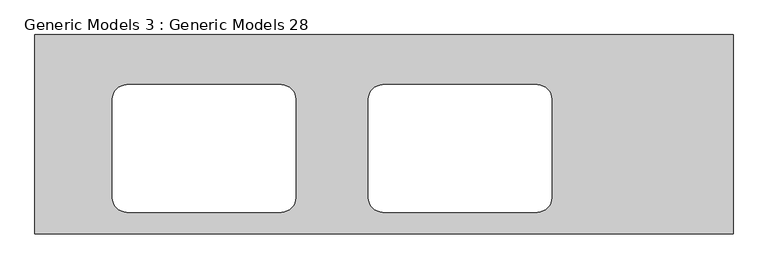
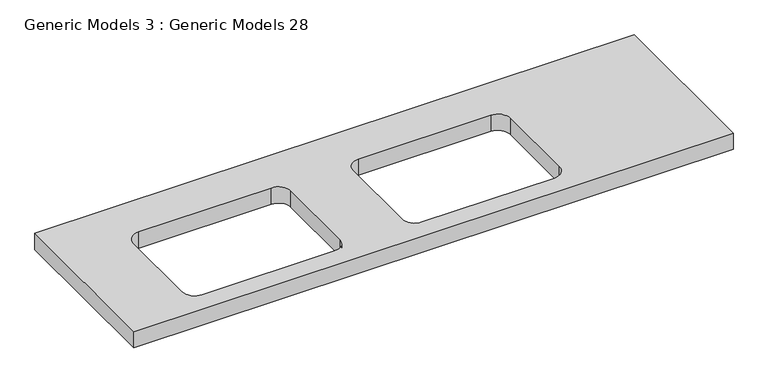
"""IFC4 building model written with IfcOpenShell, lengths in millimetres: proxy geometry, Generic Models 3 : Generic Models 28."""

import ifcopenshell
import ifcopenshell.guid

model = None  # the IFC model being written
_history = None  # IfcOwnerHistory: only IFC2X3 demands one
_inside = {}  # id of a spatial element -> (the spatial element, [elements in it])
_under = {}  # id of a project, library or spatial element -> (it, [spatial elements below it])
_declared = {}  # id of a project -> (the project, [libraries it declares])
_typed = {}  # id of a type object -> (the type object, [elements of that type])
_made_of = {}  # id of a material, layer set ... -> (it, [elements and type objects made of it])


def new_model(schema):
    """Start an empty IFC model of exactly this schema.

    Asked for "IFC4X3", IfcOpenShell would pick the latest addendum, in which some entities
    have other attributes; the version numbers below select the first issue.
    IFC2X3 requires an IfcOwnerHistory on every rooted entity: one is made here for all.
    """
    global model, _history
    if schema == "IFC4X3":
        model = ifcopenshell.file(schema_version=(4, 3, 0, 0))
    else:
        model = ifcopenshell.file(schema=schema)
    _inside.clear()
    _under.clear()
    _declared.clear()
    _typed.clear()
    _made_of.clear()
    _history = None
    if model.schema == "IFC2X3":
        org = make("IfcOrganization", Name="unknown")
        user = make(
            "IfcPersonAndOrganization",
            ThePerson=make("IfcPerson", FamilyName="unknown"),
            TheOrganization=org,
        )
        app = make(
            "IfcApplication",
            ApplicationDeveloper=org,
            Version="unknown",
            ApplicationFullName="unknown",
            ApplicationIdentifier="unknown",
        )
        _history = make(
            "IfcOwnerHistory",
            OwningUser=user,
            OwningApplication=app,
            ChangeAction="ADDED",
            CreationDate=0,
        )
    return model


def make(cls, **values):
    """One entity of the class cls with the attributes given. An attribute that is None is left unset."""
    return model.create_entity(
        cls, **{name: value for name, value in values.items() if value is not None}
    )


def rooted(cls, **values):
    """An entity with a GlobalId (a new one), such as an element, a storey or a relation."""
    return make(cls, GlobalId=ifcopenshell.guid.new(), OwnerHistory=_history, **values)


def si_unit(unit_type, name, prefix=None):
    """IfcSIUnit, for example si_unit("LENGTHUNIT", "METRE", prefix="MILLI")."""
    return make("IfcSIUnit", UnitType=unit_type, Prefix=prefix, Name=name)


def assignment(units):
    """IfcUnitAssignment: the units of a project."""
    return None if units is None else make("IfcUnitAssignment", Units=units)


def point(xyz):
    """IfcCartesianPoint."""
    return None if xyz is None else make("IfcCartesianPoint", Coordinates=xyz)


def direction(xyz):
    """IfcDirection."""
    return None if xyz is None else make("IfcDirection", DirectionRatios=xyz)


def frame(location, z_axis=None, x_axis=None):
    """IfcAxis2Placement3D, a coordinate frame: its origin and axes. An axis left out is left unset."""
    return make(
        "IfcAxis2Placement3D",
        Location=point(location),
        Axis=direction(z_axis),
        RefDirection=direction(x_axis),
    )


def frame_2d(location, x_axis=None):
    """IfcAxis2Placement2D, a coordinate frame in the plane: its origin and x axis."""
    return make(
        "IfcAxis2Placement2D", Location=point(location), RefDirection=direction(x_axis)
    )


def origin():
    """The frame at (0, 0, 0) with its axes left unset."""
    return frame((0.0, 0.0, 0.0))


def place(relative_to, where):
    """IfcLocalPlacement: puts the frame where relative to a parent placement (None: the world)."""
    return make(
        "IfcLocalPlacement", PlacementRelTo=relative_to, RelativePlacement=where
    )


def context(
    kind, dimensions, precision=None, world=None, true_north=None, identifier=None
):
    """IfcGeometricRepresentationContext, for example the 3D "Model" context."""
    return make(
        "IfcGeometricRepresentationContext",
        ContextIdentifier=identifier,
        ContextType=kind,
        CoordinateSpaceDimension=dimensions,
        Precision=precision,
        WorldCoordinateSystem=world,
        TrueNorth=true_north,
    )


def project(units=None, contexts=None):
    """IfcProject with its units and contexts."""
    return rooted(
        "IfcProject",
        Name="project",
        RepresentationContexts=contexts,
        UnitsInContext=assignment(units),
    )


def spatial(cls, under=None, at=None, **own):
    """A site, building, storey or space (cls), placed at a placement, below another one or the project."""
    s = rooted(cls, ObjectPlacement=at, **own)
    if under is not None:
        _under.setdefault(under.id(), (under, []))[1].append(s)
    return s


def polyline(points):
    """IfcPolyline through the points."""
    return make("IfcPolyline", Points=[point(p) for p in points])


def circle_curve(where, radius):
    """IfcCircle in the frame where."""
    return make("IfcCircle", Position=where, Radius=radius)


def trimmed(basis, trim1, trim2, sense, master):
    """IfcTrimmedCurve: the piece of a basis curve between two trims."""
    return make(
        "IfcTrimmedCurve",
        BasisCurve=basis,
        Trim1=trim1,
        Trim2=trim2,
        SenseAgreement=sense,
        MasterRepresentation=master,
    )


def segment(curve, same_sense, transition):
    """IfcCompositeCurveSegment."""
    return make(
        "IfcCompositeCurveSegment",
        Transition=transition,
        SameSense=same_sense,
        ParentCurve=curve,
    )


def composite_curve(segments, self_intersect=None):
    """IfcCompositeCurve: segments joined end to end."""
    return make("IfcCompositeCurve", Segments=segments, SelfIntersect=self_intersect)


def outline(outer, holes=None, kind="AREA"):
    """IfcArbitraryClosedProfileDef: a profile drawn as a closed curve; with holes, ...WithVoids."""
    if holes is None:
        return make("IfcArbitraryClosedProfileDef", ProfileType=kind, OuterCurve=outer)
    return make(
        "IfcArbitraryProfileDefWithVoids",
        ProfileType=kind,
        OuterCurve=outer,
        InnerCurves=holes,
    )


def extrude(swept, where, along, depth):
    """IfcExtrudedAreaSolid: the profile swept, set in the frame where, extruded along a direction by depth."""
    return make(
        "IfcExtrudedAreaSolid",
        SweptArea=swept,
        Position=where,
        ExtrudedDirection=direction(along),
        Depth=depth,
    )


def shape(context_of_items, identifier, shape_type, items):
    """IfcShapeRepresentation: the items that make up one representation, for example the "Body"."""
    return make(
        "IfcShapeRepresentation",
        ContextOfItems=context_of_items,
        RepresentationIdentifier=identifier,
        RepresentationType=shape_type,
        Items=items,
    )


def source(mapping_origin, context_of_items, identifier, shape_type, items):
    """IfcRepresentationMap: a shape defined once, which mapped items show again and again."""
    return make(
        "IfcRepresentationMap",
        MappingOrigin=mapping_origin,
        MappedRepresentation=shape(context_of_items, identifier, shape_type, items),
    )


def transform(
    local_origin,
    x_axis=None,
    y_axis=None,
    z_axis=None,
    scale=None,
    scale2=None,
    scale3=None,
    uniform=True,
):
    """IfcCartesianTransformationOperator3D, or its non-uniform kind. x_axis, y_axis, z_axis: its Axis1, 2, 3."""
    if uniform:
        return make(
            "IfcCartesianTransformationOperator3D",
            Axis1=direction(x_axis),
            Axis2=direction(y_axis),
            LocalOrigin=point(local_origin),
            Scale=scale,
            Axis3=direction(z_axis),
        )
    return make(
        "IfcCartesianTransformationOperator3DnonUniform",
        Axis1=direction(x_axis),
        Axis2=direction(y_axis),
        LocalOrigin=point(local_origin),
        Scale=scale,
        Axis3=direction(z_axis),
        Scale2=scale2,
        Scale3=scale3,
    )


def mapped(mapping_source, mapping_target):
    """IfcMappedItem: shows the shape of a source again, moved by a transform."""
    return make(
        "IfcMappedItem", MappingSource=mapping_source, MappingTarget=mapping_target
    )


def made_of(thing, what):
    """Note that an element or type object is made of a material, layer set ...; save() writes the relation."""
    if what is not None:
        _made_of.setdefault(what.id(), (what, []))[1].append(thing)
    return thing


def element(
    cls,
    number,
    at=None,
    inside=None,
    cuts=None,
    type_object=None,
    material=None,
    context=None,
    identifier="Body",
    shape_type=None,
    held_by="IfcProductDefinitionShape",
    body=None,
    shapes=None,
    **own,
):
    """One element of the class cls, such as IfcWall. Its Tag is "e" and its number.

    at: its placement. inside: the storey or other place that contains it. cuts: it is an
    opening in that element (IfcRelVoidsElement). A single representation is given by context,
    identifier, shape_type and body (its items); several are given by shapes. held_by: the class
    of the entity that holds the representations. save() writes the other relations.
    """
    e = rooted(cls, Tag="e%d" % number, ObjectPlacement=at, **own)
    if body is not None:
        shapes = [shape(context, identifier, shape_type, body)]
    if shapes is not None:
        e.Representation = make(held_by, Representations=shapes)
    if inside is not None:
        _inside.setdefault(inside.id(), (inside, []))[1].append(e)
    if cuts is not None:
        rooted(
            "IfcRelVoidsElement", RelatingBuildingElement=cuts, RelatedOpeningElement=e
        )
    if type_object is not None:
        _typed.setdefault(type_object.id(), (type_object, []))[1].append(e)
    return made_of(e, material)


def aggregate(whole, parts):
    """IfcRelAggregates: a whole, such as a stair, and the parts it consists of."""
    return rooted("IfcRelAggregates", RelatingObject=whole, RelatedObjects=parts)


def save(model, path):
    """Write the relations noted so far, then the file.

    IfcRelAggregates (storeys below a building ...), IfcRelContainedInSpatialStructure (elements
    in a storey), IfcRelDefinesByType, IfcRelAssociatesMaterial and IfcRelDeclares: one each for
    every whole, place, type object, material and project.
    """
    for whole, parts in _under.values():
        aggregate(whole, parts)
    for where, things in _inside.values():
        rooted(
            "IfcRelContainedInSpatialStructure",
            RelatedElements=things,
            RelatingStructure=where,
        )
    for kind, things in _typed.values():
        rooted("IfcRelDefinesByType", RelatedObjects=things, RelatingType=kind)
    for what, things in _made_of.values():
        rooted("IfcRelAssociatesMaterial", RelatedObjects=things, RelatingMaterial=what)
    for by, libraries in _declared.values():
        rooted("IfcRelDeclares", RelatingContext=by, RelatedDefinitions=libraries)
    model.write(path)


def generic_models_3_generic_models_28_048fe61c(model_context):
    return source(origin(), model_context, "Body", "SweptSolid", [
        extrude(outline(polyline([(-27883.9546758, -12764.5871375), (-25433.9546758, -12764.5871375), (-25433.9546758, -13464.5871375), (-27883.9546758, -13464.5871375), (-27883.9546758, -12764.5871375)]), holes=[composite_curve([segment(polyline([(-26968.7687427, -13337.1470274), (-26968.7687427, -12991.1470274)]), True, "CONTINUOUS"), segment(trimmed(circle_curve(frame_2d((-27019.5687427, -12991.1470274)), 50.8), [point((-26968.7687427, -12991.1470274))], [point((-27019.5687427, -12940.3470274))], True, "CARTESIAN"), True, "CONTINUOUS"), segment(polyline([(-27019.5687427, -12940.3470274), (-27561.0687427, -12940.3470274)]), True, "CONTINUOUS"), segment(trimmed(circle_curve(frame_2d((-27561.0687427, -12991.1470274)), 50.8), [point((-27561.0687427, -12940.3470274))], [point((-27611.8687427, -12991.1470274))], True, "CARTESIAN"), True, "CONTINUOUS"), segment(polyline([(-27611.8687427, -12991.1470274), (-27611.8687427, -13337.1470274)]), True, "CONTINUOUS"), segment(trimmed(circle_curve(frame_2d((-27561.0687427, -13337.1470274)), 50.8), [point((-27611.8687427, -13337.1470274))], [point((-27561.0687427, -13387.9470274))], True, "CARTESIAN"), True, "CONTINUOUS"), segment(polyline([(-27561.0687427, -13387.9470274), (-27019.5687427, -13387.9470274)]), True, "CONTINUOUS"), segment(trimmed(circle_curve(frame_2d((-27019.5687427, -13337.1470274)), 50.8), [point((-27019.5687427, -13387.9470274))], [point((-26968.7687427, -13337.1470274))], True, "CARTESIAN"), True, "CONTINUOUS")], self_intersect=False), composite_curve([segment(polyline([(-26070.5855873, -13337.1470274), (-26070.5855873, -12991.1470274)]), True, "CONTINUOUS"), segment(trimmed(circle_curve(frame_2d((-26121.3855873, -12991.1470274)), 50.8), [point((-26070.5855873, -12991.1470274))], [point((-26121.3855873, -12940.3470274))], True, "CARTESIAN"), True, "CONTINUOUS"), segment(polyline([(-26121.3855873, -12940.3470274), (-26662.8855873, -12940.3470274)]), True, "CONTINUOUS"), segment(trimmed(circle_curve(frame_2d((-26662.8855873, -12991.1470274)), 50.8), [point((-26662.8855873, -12940.3470274))], [point((-26713.6855873, -12991.1470274))], True, "CARTESIAN"), True, "CONTINUOUS"), segment(polyline([(-26713.6855873, -12991.1470274), (-26713.6855873, -13337.1470274)]), True, "CONTINUOUS"), segment(trimmed(circle_curve(frame_2d((-26662.8855873, -13337.1470274)), 50.8), [point((-26713.6855873, -13337.1470274))], [point((-26662.8855873, -13387.9470274))], True, "CARTESIAN"), True, "CONTINUOUS"), segment(polyline([(-26662.8855873, -13387.9470274), (-26121.3855873, -13387.9470274)]), True, "CONTINUOUS"), segment(trimmed(circle_curve(frame_2d((-26121.3855873, -13337.1470274)), 50.8), [point((-26121.3855873, -13387.9470274))], [point((-26070.5855873, -13337.1470274))], True, "CARTESIAN"), True, "CONTINUOUS")], self_intersect=False)]), frame((0.0, 0.0, 830.0), z_axis=(0.0, 0.0, 1.0), x_axis=(1.0, 0.0, 0.0)), (0.0, 0.0, 1.0), 70.0),
    ])


if __name__ == "__main__":
    model = new_model("IFC4")
    model_context = context("Model", 3, world=origin())
    ifc_project = project(units=[si_unit("LENGTHUNIT", "METRE", prefix="MILLI")], contexts=[model_context])
    site = spatial("IfcSite", under=ifc_project)
    building = spatial("IfcBuilding", under=site)
    placement = place(None, origin())
    generic_models_3_generic_models_28_shape = generic_models_3_generic_models_28_048fe61c(model_context)
    element("IfcBuildingElementProxy", 1, Name="Generic Models 3 : Generic Models 28", ObjectType="Generic Models 3 : Generic Models 28", at=placement, inside=building, context=model_context, shape_type="MappedRepresentation", body=[
        mapped(generic_models_3_generic_models_28_shape, transform((0.0, 0.0, 0.0), x_axis=(1.0, 0.0, 0.0), y_axis=(0.0, 1.0, 0.0), z_axis=(0.0, 0.0, 1.0))),
    ])
    save(model, "model.ifc")
